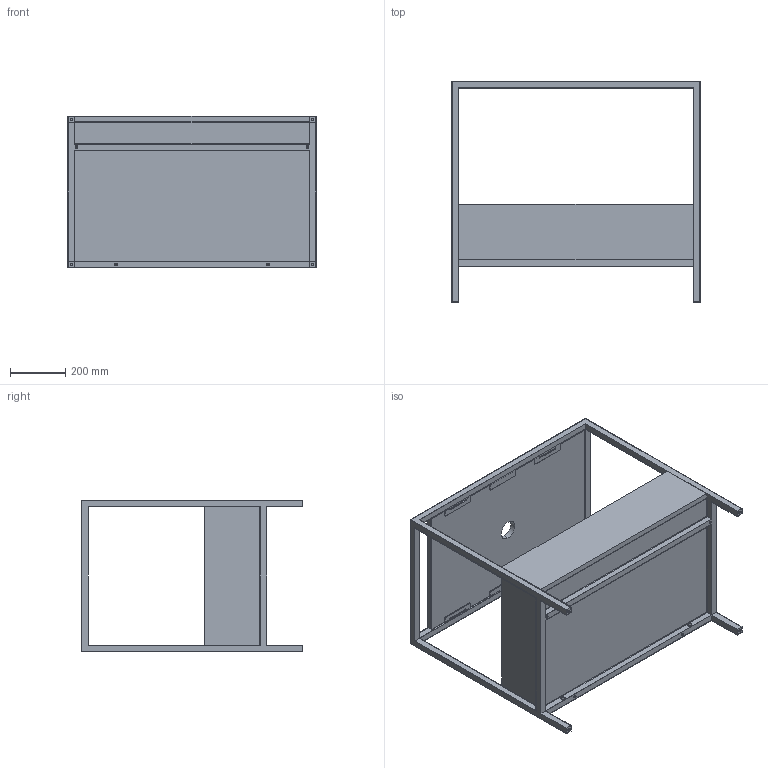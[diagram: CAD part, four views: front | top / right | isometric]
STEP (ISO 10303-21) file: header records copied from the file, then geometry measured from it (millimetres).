
FILE_DESCRIPTION (( 'STEP AP203' ), '1' );
FILE_NAME ('STA 90 01.STEP', '2019-02-04T12:09:07', ( '' ), ( '' ), 'SwSTEP 2.0', 'SolidWorks 2019', '' );
FILE_SCHEMA (( 'CONFIG_CONTROL_DESIGN' ));
Length unit declared in the file: millimetre
Products named in the file (4): cassettoSTAND90; STA 90 01; PIANO MISURA 90 2018; struttura STAND90 2018
Assembly tree (3 placements, depth 2):
  STA 90 01
    struttura STAND90 2018
    PIANO MISURA 90 2018
    cassettoSTAND90
Bounding box: 900 x 800 x 550 mm (x, y, z)
Volume: 36271693.6 mm3; surface area: 5283026 mm2
Topology: 4 solids, 4 shells, 197 faces, 530 edges, 332 vertices
Faces by surface type: plane 135, cylinder 54, torus 8
Entity records: 6600 total; most frequent: CARTESIAN_POINT 1065, ORIENTED_EDGE 1060, DIRECTION 1052, EDGE_CURVE 530, VECTOR 414, LINE 414, VERTEX_POINT 332, AXIS2_PLACEMENT_3D 319
